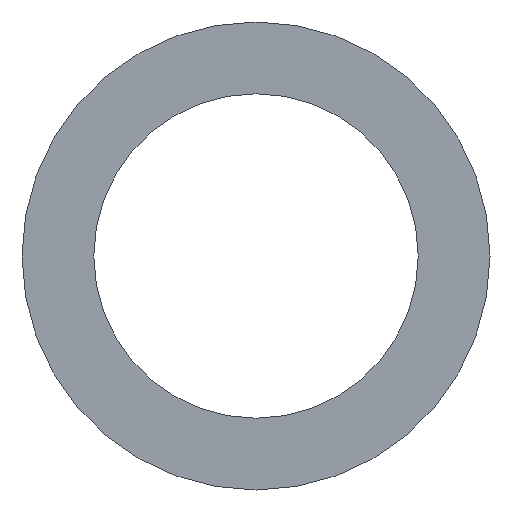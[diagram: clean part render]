
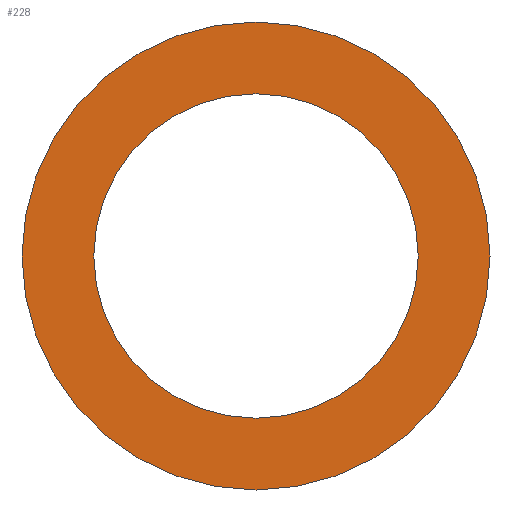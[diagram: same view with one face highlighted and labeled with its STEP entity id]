
A CAD part, front view. The second image highlights one B-rep face of the part: STEP entity #228.
In plain terms, the highlighted planar face has unit normal (0, -1, 0).
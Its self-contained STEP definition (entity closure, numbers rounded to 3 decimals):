
#6 = CARTESIAN_POINT ( 'NONE',  ( 0., -2.3, 30.3 ) ) ;
#9 = DIRECTION ( 'NONE',  ( 0., -1., 0. ) ) ;
#19 = EDGE_CURVE ( 'NONE', #201, #296, #209, .T. ) ;
#23 = AXIS2_PLACEMENT_3D ( 'NONE', #123, #236, #40 ) ;
#35 = CARTESIAN_POINT ( 'NONE',  ( 0., -2.3, 0. ) ) ;
#38 = DIRECTION ( 'NONE',  ( 0., 0., -1. ) ) ;
#40 = DIRECTION ( 'NONE',  ( 0., 0., -1. ) ) ;
#41 = FACE_BOUND ( 'NONE', #83, .T. ) ;
#45 = CIRCLE ( 'NONE', #55, 21. ) ;
#55 = AXIS2_PLACEMENT_3D ( 'NONE', #311, #313, #38 ) ;
#64 = VERTEX_POINT ( 'NONE', #272 ) ;
#79 = ORIENTED_EDGE ( 'NONE', *, *, #19, .T. ) ;
#83 = EDGE_LOOP ( 'NONE', ( #267, #130 ) ) ;
#89 = DIRECTION ( 'NONE',  ( 0., 0., -1. ) ) ;
#101 = AXIS2_PLACEMENT_3D ( 'NONE', #308, #304, #89 ) ;
#123 = CARTESIAN_POINT ( 'NONE',  ( 0., -2.3, 0. ) ) ;
#130 = ORIENTED_EDGE ( 'NONE', *, *, #175, .F. ) ;
#131 = EDGE_CURVE ( 'NONE', #296, #201, #336, .T. ) ;
#144 = FACE_OUTER_BOUND ( 'NONE', #323, .T. ) ;
#151 = DIRECTION ( 'NONE',  ( 0., 0., -1. ) ) ;
#153 = AXIS2_PLACEMENT_3D ( 'NONE', #257, #9, #151 ) ;
#175 = EDGE_CURVE ( 'NONE', #64, #252, #45, .T. ) ;
#179 = EDGE_CURVE ( 'NONE', #252, #64, #310, .T. ) ;
#180 = PLANE ( 'NONE',  #153 ) ;
#194 = AXIS2_PLACEMENT_3D ( 'NONE', #35, #340, #206 ) ;
#201 = VERTEX_POINT ( 'NONE', #6 ) ;
#206 = DIRECTION ( 'NONE',  ( 0., 0., -1. ) ) ;
#209 = CIRCLE ( 'NONE', #101, 30.3 ) ;
#228 = ADVANCED_FACE ( 'NONE', ( #144, #41 ), #180, .T. ) ;
#236 = DIRECTION ( 'NONE',  ( 0., -1., 0. ) ) ;
#243 = CARTESIAN_POINT ( 'NONE',  ( 0., -2.3, -30.3 ) ) ;
#252 = VERTEX_POINT ( 'NONE', #353 ) ;
#257 = CARTESIAN_POINT ( 'NONE',  ( 30.3, -2.3, 0. ) ) ;
#267 = ORIENTED_EDGE ( 'NONE', *, *, #179, .F. ) ;
#272 = CARTESIAN_POINT ( 'NONE',  ( 0., -2.3, 21. ) ) ;
#296 = VERTEX_POINT ( 'NONE', #243 ) ;
#304 = DIRECTION ( 'NONE',  ( 0., -1., 0. ) ) ;
#308 = CARTESIAN_POINT ( 'NONE',  ( 0., -2.3, 0. ) ) ;
#310 = CIRCLE ( 'NONE', #194, 21. ) ;
#311 = CARTESIAN_POINT ( 'NONE',  ( 0., -2.3, 0. ) ) ;
#313 = DIRECTION ( 'NONE',  ( 0., -1., 0. ) ) ;
#317 = ORIENTED_EDGE ( 'NONE', *, *, #131, .T. ) ;
#323 = EDGE_LOOP ( 'NONE', ( #317, #79 ) ) ;
#336 = CIRCLE ( 'NONE', #23, 30.3 ) ;
#340 = DIRECTION ( 'NONE',  ( 0., -1., 0. ) ) ;
#353 = CARTESIAN_POINT ( 'NONE',  ( 0., -2.3, -21. ) ) ;
